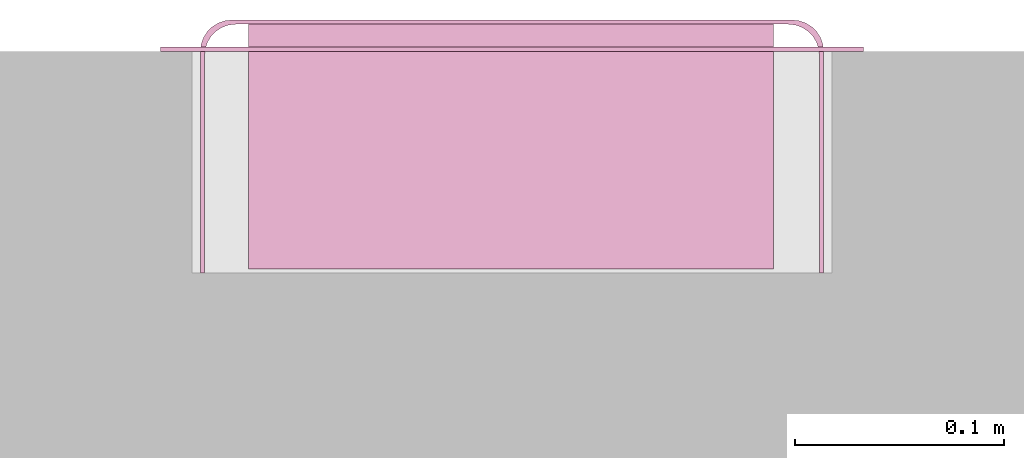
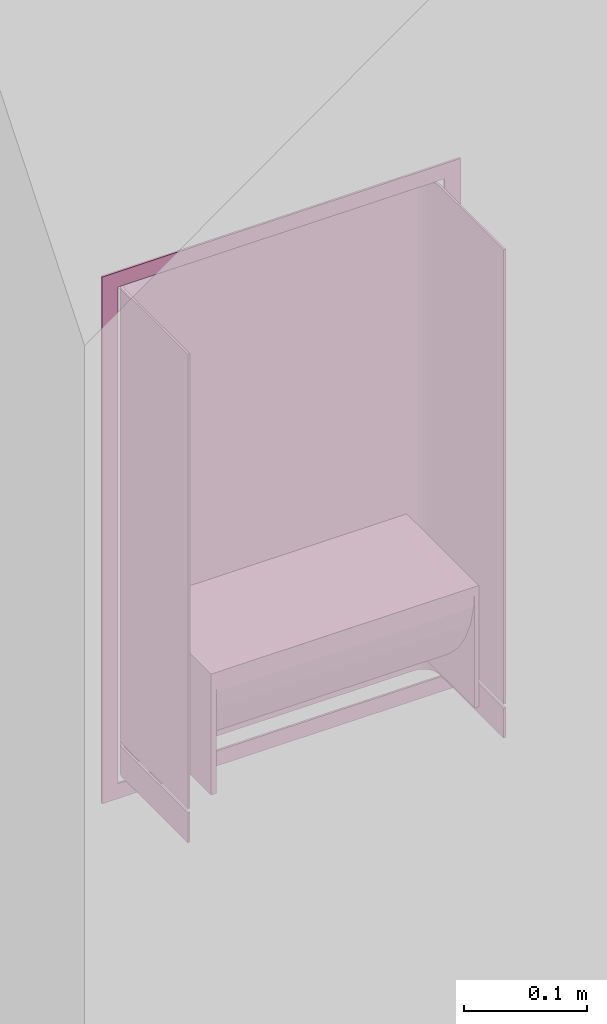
# One storey, part 2 of 2: 1 furnishing, 3 openings.
"""IFC2X3 building model written with IfcOpenShell, lengths in millimetres."""

from ifc_helpers import new_model, entity, si_unit, converted_unit, derived_unit, direction, frame, frame_2d, origin, origin_2d_with_axis, place, context, subcontext, project, spatial, polyline, circle_curve, parameter, trimmed, segment, composite_curve, rectangle, circle, outline, extrude, source, transform, mapped, type_object, type_shapes, element, save


model = new_model("IFC2X3")

# Units and contexts
model_context = context("Model", 3, precision=0.01, world=origin(), true_north=direction((6.12303176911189e-17, 1.0)))
context_of_model = context(None, 3, precision=0.01, world=origin(), true_north=direction((6.12303176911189e-17, 1.0)))
body_context = subcontext(model_context, "Body", "Model", "MODEL_VIEW")
ifc_project = project(units=[si_unit("LENGTHUNIT", "METRE", prefix="MILLI"), si_unit("AREAUNIT", "SQUARE_METRE"), si_unit("VOLUMEUNIT", "CUBIC_METRE"), converted_unit("PLANEANGLEUNIT", "DEGREE", entity("IfcRatioMeasure", 0.0174532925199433), si_unit("PLANEANGLEUNIT", "RADIAN"), dimensions=[0, 0, 0, 0, 0, 0, 0]), si_unit("MASSUNIT", "GRAM", prefix="KILO"), si_unit("TIMEUNIT", "SECOND"), si_unit("FREQUENCYUNIT", "HERTZ"), si_unit("THERMODYNAMICTEMPERATUREUNIT", "DEGREE_CELSIUS"), derived_unit("THERMALTRANSMITTANCEUNIT", [(si_unit("MASSUNIT", "GRAM", prefix="KILO"), 1), (si_unit("THERMODYNAMICTEMPERATUREUNIT", "KELVIN"), -1), (si_unit("TIMEUNIT", "SECOND"), -3)]), derived_unit("VOLUMETRICFLOWRATEUNIT", [(si_unit("LENGTHUNIT", "METRE"), 3), (si_unit("TIMEUNIT", "SECOND"), -1)]), si_unit("ELECTRICCURRENTUNIT", "AMPERE"), si_unit("ELECTRICVOLTAGEUNIT", "VOLT"), si_unit("POWERUNIT", "WATT"), si_unit("FORCEUNIT", "NEWTON", prefix="KILO"), si_unit("ILLUMINANCEUNIT", "LUX"), si_unit("LUMINOUSFLUXUNIT", "LUMEN"), si_unit("LUMINOUSINTENSITYUNIT", "CANDELA"), si_unit("PRESSUREUNIT", "PASCAL")], contexts=[model_context, context_of_model])

# Site, building, storey
site_placement = place(None, origin())
site = spatial("IfcSite", under=ifc_project, at=site_placement, Name="Default", CompositionType="ELEMENT")
building_placement = place(site_placement, origin())
building = spatial("IfcBuilding", under=site, at=building_placement, CompositionType="ELEMENT")
storey_placement = place(building_placement, origin())
storey = spatial("IfcBuildingStorey", under=building, at=storey_placement, Name="Level 1", CompositionType="ELEMENT", Elevation=0.0)

# Furnishing, openings
furniture_type = type_object("IfcFurnitureType", Name="d_line_Washroom_RecessedSanitaryPanels_PaperTowelDispenser_PanelSize3", AssemblyPlace="NOTDEFINED")
shared_shape = source(origin(), body_context, "Body", "SweptSolid", [
    extrude(rectangle(XDim=116.982904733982, YDim=5.0, at=frame_2d((0.0, 8.43769498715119e-15), x_axis=(1.0, 0.0))), frame((44.500000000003, 60.5085476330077, 57.0), z_axis=(0.0, 0.0, 1.0), x_axis=(0.0, 1.0, 0.0)), (0.0, 0.0, 1.0), 120.0),
    extrude(rectangle(XDim=116.982904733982, YDim=3.94498313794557, at=origin_2d_with_axis()), frame((290.972491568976, 60.5085476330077, 57.0), z_axis=(0.0, 0.0, 1.0), x_axis=(0.0, 1.0, 0.0)), (0.0, 0.0, 1.0), 120.0),
    extrude(outline(composite_curve([segment(polyline([(-76.3361825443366, 38.0), (38.6638174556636, 38.0)]), True, "CONTINUOUS"), segment(polyline([(38.6638174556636, 38.0), (38.6638174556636, 40.0)]), True, "CONTINUOUS"), segment(polyline([(38.6638174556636, 40.0), (-78.3190872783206, 40.0)]), True, "CONTINUOUS"), segment(trimmed(circle_curve(frame_2d((38.6638174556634, 38.0), x_axis=(1.0, 0.0)), 117.0), [parameter(179.020537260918)], [parameter(270.0)], True, "PARAMETER"), True, "CONTINUOUS"), segment(polyline([(38.6638174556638, -79.0), (38.6638174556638, -77.0)]), True, "CONTINUOUS"), segment(trimmed(circle_curve(frame_2d((38.6638174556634, 38.0), x_axis=(1.0, 0.0)), 115.0), [parameter(180.0)], [parameter(270.0)], True, "PARAMETER"), False, "CONTINUOUS")], self_intersect=False)), frame((47.0, 80.3361825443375, 137.0), z_axis=(1.0, 0.0, 0.0), x_axis=(0.0, 1.0, 0.0)), (0.0, 0.0, 1.0), 242.0),
    extrude(outline(composite_curve([segment(polyline([(-147.0, -29.0), (-147.0, 75.0)]), True, "CONTINUOUS"), segment(polyline([(-147.0, 75.0), (-149.0, 75.0)]), True, "CONTINUOUS"), segment(polyline([(-149.0, 75.0), (-149.0, -31.0)]), True, "CONTINUOUS"), segment(trimmed(circle_curve(frame_2d((-134.0, -31.0), x_axis=(1.0, 0.0)), 15.0), [parameter(180.0)], [parameter(270.0)], True, "PARAMETER"), True, "CONTINUOUS"), segment(polyline([(-134.0, -46.0), (134.0, -46.0)]), True, "CONTINUOUS"), segment(trimmed(circle_curve(frame_2d((134.0, -31.0), x_axis=(1.0, 0.0)), 15.0), [parameter(270.000000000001)], [parameter(8.65110873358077e-13)], True, "PARAMETER"), True, "CONTINUOUS"), segment(polyline([(149.0, -31.0), (149.0, 75.0)]), True, "CONTINUOUS"), segment(polyline([(149.0, 75.0), (147.0, 75.0)]), True, "CONTINUOUS"), segment(polyline([(147.0, 75.0), (147.0, -29.0)]), True, "CONTINUOUS"), segment(trimmed(circle_curve(frame_2d((132.0, -29.0), x_axis=(1.0, 0.0)), 15.0), [parameter(269.999999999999)], [parameter(359.999999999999)], True, "PARAMETER"), False, "CONTINUOUS"), segment(polyline([(132.0, -44.0), (-132.0, -44.0)]), True, "CONTINUOUS"), segment(trimmed(circle_curve(frame_2d((-132.0, -29.0), x_axis=(1.0, 0.0)), 15.0), [parameter(180.0)], [parameter(269.999999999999)], True, "PARAMETER"), False, "CONTINUOUS")], self_intersect=False)), frame((168.0, 75.0, 52.628302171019), z_axis=(0.0, 0.0, -1.0), x_axis=(1.0, 0.0, 0.0)), (0.0, 0.0, -1.0), 450.371697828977),
    extrude(outline(composite_curve([segment(polyline([(-147.0, -29.0), (-147.0, 75.0)]), True, "CONTINUOUS"), segment(polyline([(-147.0, 75.0), (-149.0, 75.0)]), True, "CONTINUOUS"), segment(polyline([(-149.0, 75.0), (-149.0, -31.0)]), True, "CONTINUOUS"), segment(trimmed(circle_curve(frame_2d((-134.0, -31.0), x_axis=(1.0, 0.0)), 15.0), [parameter(180.0)], [parameter(270.0)], True, "PARAMETER"), True, "CONTINUOUS"), segment(polyline([(-134.0, -46.0), (134.0, -46.0)]), True, "CONTINUOUS"), segment(trimmed(circle_curve(frame_2d((134.0, -31.0), x_axis=(1.0, 0.0)), 15.0), [parameter(270.000000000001)], [parameter(7.63333123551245e-13)], True, "PARAMETER"), True, "CONTINUOUS"), segment(polyline([(149.0, -31.0), (149.0, 75.0)]), True, "CONTINUOUS"), segment(polyline([(149.0, 75.0), (147.0, 75.0)]), True, "CONTINUOUS"), segment(polyline([(147.0, 75.0), (147.0, -29.0)]), True, "CONTINUOUS"), segment(trimmed(circle_curve(frame_2d((132.0, -29.0), x_axis=(1.0, 0.0)), 15.0), [parameter(269.999999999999)], [parameter(359.999999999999)], True, "PARAMETER"), False, "CONTINUOUS"), segment(polyline([(132.0, -44.0), (-132.0, -44.0)]), True, "CONTINUOUS"), segment(trimmed(circle_curve(frame_2d((-132.0, -29.0), x_axis=(1.0, 0.0)), 15.0), [parameter(180.0)], [parameter(269.999999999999)], True, "PARAMETER"), False, "CONTINUOUS")], self_intersect=False)), frame((168.0, 75.0, 19.1283021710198), z_axis=(0.0, 0.0, -1.0), x_axis=(1.0, 0.0, 0.0)), (0.0, 0.0, -1.0), 29.4999999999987),
    extrude(outline(polyline([(-261.0, -168.0), (261.0, -168.0), (261.0, 168.0), (-261.0, 168.0), (-261.0, -168.0)]), holes=[polyline([(-246.0, 153.0), (246.0, 153.0), (246.0, -153.0), (-246.0, -153.0), (-246.0, 153.0)])]), frame((168.0, 106.0, 261.0), z_axis=(0.0, 1.0, 0.0), x_axis=(0.0, 0.0, 1.0)), (0.0, 0.0, 1.0), 2.0),
])
type_shapes(furniture_type, [shared_shape])
furnishing_placement = place(storey_placement, frame((48.2979895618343, -361.555556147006, 985.0)))
furnishing = element("IfcFurnishingElement", 1, at=furnishing_placement, inside=storey, type_object=furniture_type, Name="14710003002b:d_line_Washroom_RecessedSanitaryPanels_PaperTowelDispenser_PanelSize3", ObjectType="d_line_Washroom_RecessedSanitaryPanels_PaperTowelDispenser_PanelSize3", context=body_context, shape_type="MappedRepresentation", body=[
    mapped(shared_shape, transform((0.0, 0.0, 0.0), scale=1.0)),
])
opening_1_placement = place(storey_placement, frame((48.2979895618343, -361.555556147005, 985.0)))
element("IfcOpeningElement", 2, at=opening_1_placement, cuts=furnishing, Name="14710003002b:d_line_Washroom_RecessedSanitaryPanels_PaperTowelDispenser_PanelSize3:1", ObjectType="Opening", context=body_context, shape_type="SweptSolid", body=[
    extrude(circle(Radius=20.0, at=frame_2d((0.0, -1.35358391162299e-13), x_axis=(1.0, 0.0))), frame((51262.7778313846, 1943.8000000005, -299021.498456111), z_axis=(0.0, -1.0, 0.0), x_axis=(1.0, 0.0, 0.0)), (0.0, 0.0, 1.0), 1.99999999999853),
])
opening_2_placement = place(storey_placement, frame((48.2979895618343, -361.555556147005, 985.0)))
element("IfcOpeningElement", 3, at=opening_2_placement, cuts=furnishing, Name="14710003002b:d_line_Washroom_RecessedSanitaryPanels_PaperTowelDispenser_PanelSize3:2", ObjectType="Opening", context=body_context, shape_type="SweptSolid", body=[
    extrude(circle(Radius=20.0, at=origin_2d_with_axis()), frame((51150.0221686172, 1943.8000000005, -299021.498456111), z_axis=(0.0, -1.0, 0.0), x_axis=(1.0, 0.0, 0.0)), (0.0, 0.0, 1.0), 1.99999999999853),
])
opening_3_placement = place(storey_placement, frame((48.2979895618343, -361.555556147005, 985.0)))
element("IfcOpeningElement", 4, at=opening_3_placement, cuts=furnishing, Name="14710003002b:d_line_Washroom_RecessedSanitaryPanels_PaperTowelDispenser_PanelSize3:3", ObjectType="Opening", context=body_context, shape_type="SweptSolid", body=[
    extrude(rectangle(XDim=115.0, YDim=242.0, at=frame_2d((0.0, -6.75015598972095e-14), x_axis=(0.0, 1.0))), frame((51206.4000000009, 1943.8000000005, -299125.499999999), z_axis=(0.0, -1.0, 0.0), x_axis=(1.0, 0.0, 0.0)), (0.0, 0.0, 1.0), 1.99999999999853),
])

save(model, "model.ifc")
